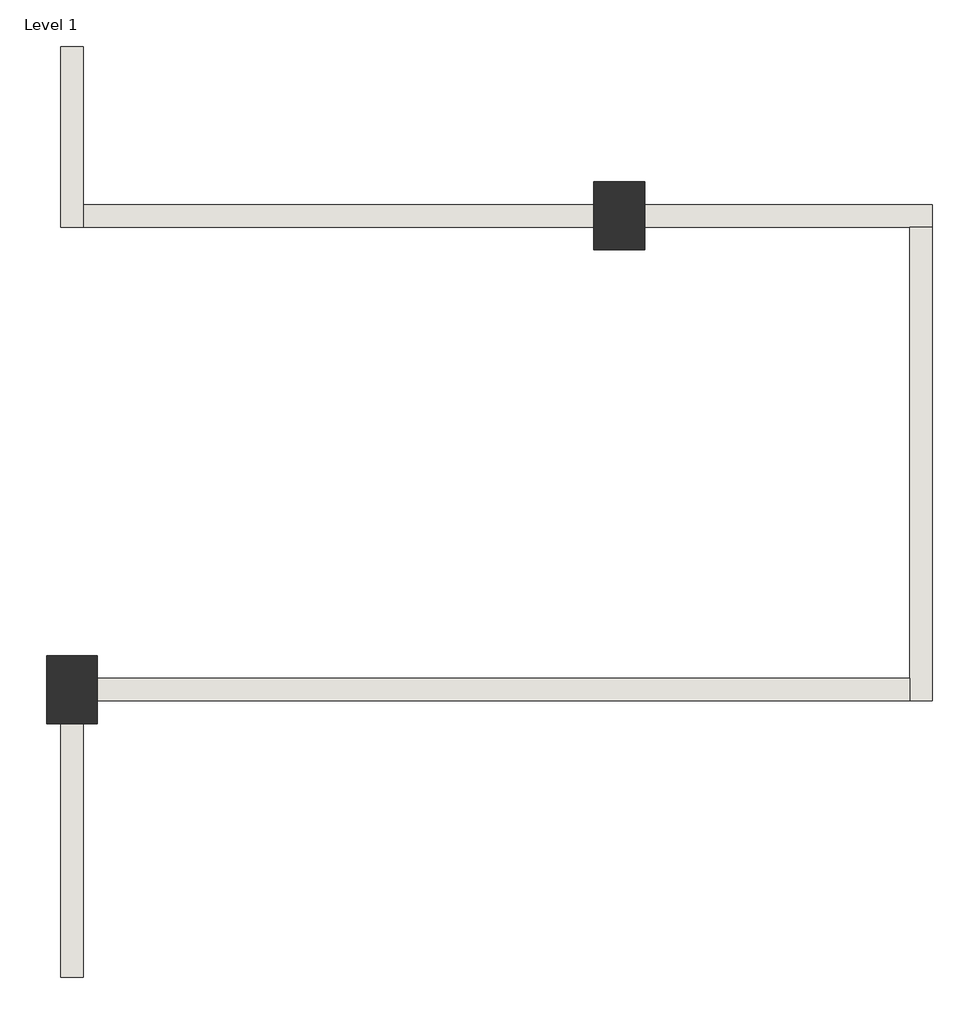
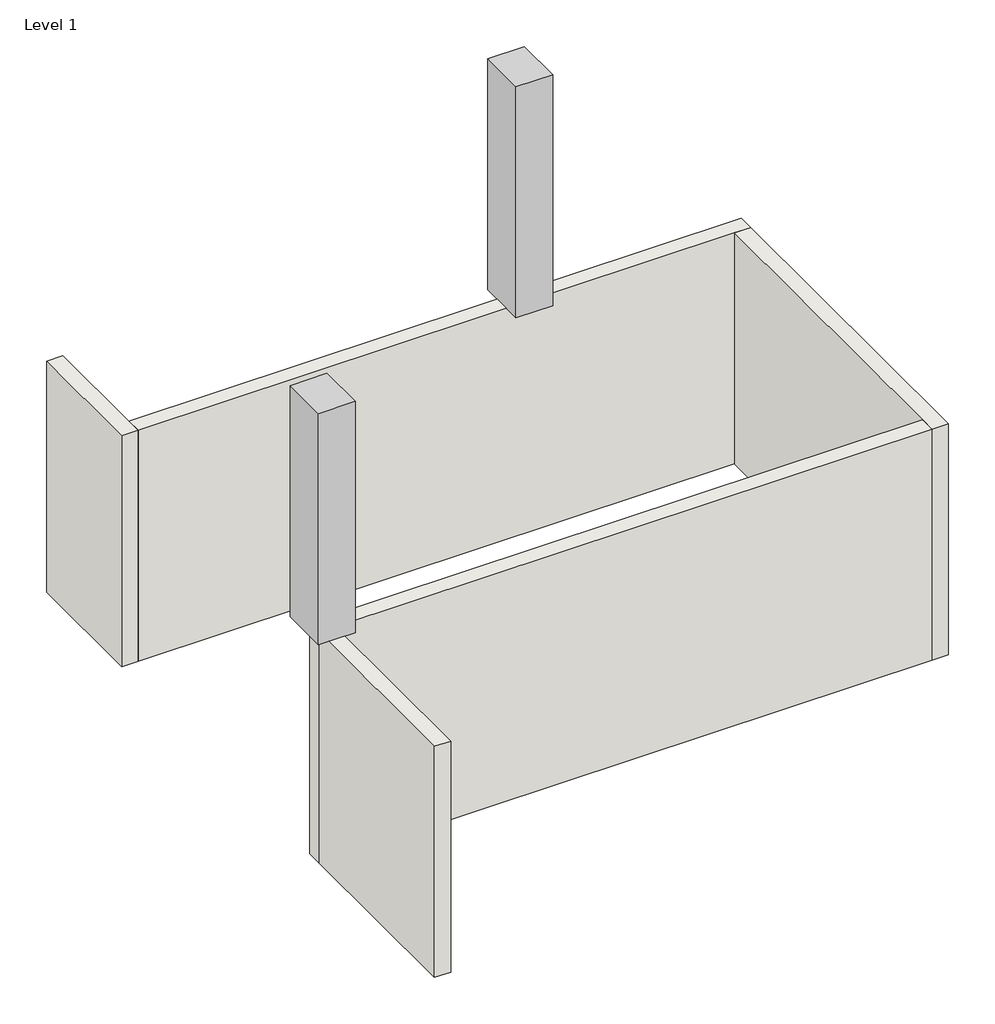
# One storey: 5 walls, 2 columns.
"""IFC4 building model written with IfcOpenShell, lengths in millimetres."""

from ifc_helpers import new_model, si_unit, frame, origin, origin_with_axes, place, context, project, spatial, polyline, outline, extrude, faceted_brep, element, save

model = new_model("IFC4")

# Units and contexts
model_context = context("Model", 3, world=origin())
ifc_project = project(units=[si_unit("LENGTHUNIT", "METRE", prefix="MILLI")], contexts=[model_context])

# Site, building, storey
site = spatial("IfcSite", under=ifc_project)
building = spatial("IfcBuilding", under=site)
storey = spatial("IfcBuildingStorey", under=building, Name="Level 1", Elevation=0.0)

# Columns
placement = place(None, origin())
element("IfcColumn", 1, ObjectType="Concrete-Rectangular-Column : 18 x 24", at=placement, inside=storey, context=model_context, shape_type="SweptSolid", body=[
    extrude(outline(polyline([(-15124.1463995, 18288.2057454), (-15124.1463995, 17678.6057454), (-15581.3463995, 17678.6057454), (-15581.3463995, 18288.2057454), (-15124.1463995, 18288.2057454)])), origin_with_axes(), (0.0, 0.0, 1.0), 3048.0),
])
element("IfcColumn", 2, ObjectType="Concrete-Rectangular-Column : 18 x 24", at=placement, inside=storey, context=model_context, shape_type="SweptSolid", body=[
    extrude(outline(polyline([(-20051.7463995, 14021.0057454), (-20051.7463995, 13411.4057454), (-20508.9463995, 13411.4057454), (-20508.9463995, 14021.0057454), (-20051.7463995, 14021.0057454)])), origin_with_axes(), (0.0, 0.0, 1.0), 3048.0),
])

# Walls
element("IfcWall", 3, ObjectType="Generic - 8\"", at=placement, inside=storey, context=model_context, shape_type="Brep", body=[
    faceted_brep([(-20381.9463995, 19507.4057454, -3048.0), (-20381.9463995, 17881.8057454, -3048.0), (-20381.9463995, 17881.8057454, 0.0), (-20381.9463995, 19507.4057454, 0.0), (-20178.7463995, 19507.4057454, -3048.0), (-20178.7463995, 19507.4057454, 0.0), (-20178.7463995, 18085.0057454, 0.0), (-20178.7463995, 17881.8057454, 0.0), (-20178.7463995, 17881.8057454, -3048.0), (-20178.7463995, 18085.0057454, -3048.0)], [[[0, 1, 2, 3]], [[4, 5, 6, 7, 8, 9]], [[1, 0, 4, 9, 8]], [[3, 2, 7, 6, 5]], [[0, 3, 5, 4]], [[2, 1, 8, 7]]]),
])
element("IfcWall", 4, ObjectType="Generic - 8\"", at=placement, inside=storey, context=model_context, shape_type="Brep", body=[
    faceted_brep([(-20178.7463995, 17881.8057454, -3048.0), (-12736.5463995, 17881.8057454, -3048.0), (-12533.3463995, 17881.8057454, -3048.0), (-12533.3463995, 17881.8057454, 0.0), (-12736.5463995, 17881.8057454, 0.0), (-20178.7463995, 17881.8057454, 0.0), (-20178.7463995, 18085.0057454, -3048.0), (-20178.7463995, 18085.0057454, 0.0), (-12533.3463995, 18085.0057454, 0.0), (-12533.3463995, 18085.0057454, -3048.0)], [[[0, 1, 2, 3, 4, 5]], [[6, 7, 8, 9]], [[2, 1, 0, 6, 9]], [[5, 4, 3, 8, 7]], [[0, 5, 7, 6]], [[3, 2, 9, 8]]]),
])
element("IfcWall", 5, ObjectType="Generic - 8\"", at=placement, inside=storey, context=model_context, shape_type="Brep", body=[
    faceted_brep([(-12736.5463995, 17881.8057454, -3048.0), (-12736.5463995, 13817.8057454, -3048.0), (-12736.5463995, 13614.6057454, -3048.0), (-12736.5463995, 13614.6057454, 0.0), (-12736.5463995, 13817.8057454, 0.0), (-12736.5463995, 17881.8057454, 0.0), (-12533.3463995, 17881.8057454, -3048.0), (-12533.3463995, 17881.8057454, 0.0), (-12533.3463995, 13614.6057454, 0.0), (-12533.3463995, 13614.6057454, -3048.0)], [[[0, 1, 2, 3, 4, 5]], [[6, 7, 8, 9]], [[2, 1, 0, 6, 9]], [[5, 4, 3, 8, 7]], [[0, 5, 7, 6]], [[3, 2, 9, 8]]]),
])
element("IfcWall", 6, ObjectType="Generic - 8\"", at=placement, inside=storey, context=model_context, shape_type="Brep", body=[
    faceted_brep([(-12736.5463995, 13817.8057454, -3048.0), (-20381.9463995, 13817.8057454, -3048.0), (-20381.9463995, 13817.8057454, 0.0), (-12736.5463995, 13817.8057454, 0.0), (-12736.5463995, 13614.6057454, -3048.0), (-12736.5463995, 13614.6057454, 0.0), (-20178.7463995, 13614.6057454, 0.0), (-20381.9463995, 13614.6057454, 0.0), (-20381.9463995, 13614.6057454, -3048.0), (-20178.7463995, 13614.6057454, -3048.0)], [[[0, 1, 2, 3]], [[4, 5, 6, 7, 8, 9]], [[1, 0, 4, 9, 8]], [[3, 2, 7, 6, 5]], [[0, 3, 5, 4]], [[2, 1, 8, 7]]]),
])
element("IfcWall", 7, ObjectType="Generic - 8\"", at=placement, inside=storey, context=model_context, shape_type="SweptSolid", body=[
    extrude(outline(polyline([(-20381.9463995, 11125.4057454), (-20381.9463995, 13614.6057454), (-20178.7463995, 13614.6057454), (-20178.7463995, 11125.4057454), (-20381.9463995, 11125.4057454)])), frame((0.0, 0.0, -3048.0), z_axis=(0.0, 0.0, 1.0), x_axis=(1.0, 0.0, 0.0)), (0.0, 0.0, 1.0), 3048.0),
])

save(model, "model.ifc")
